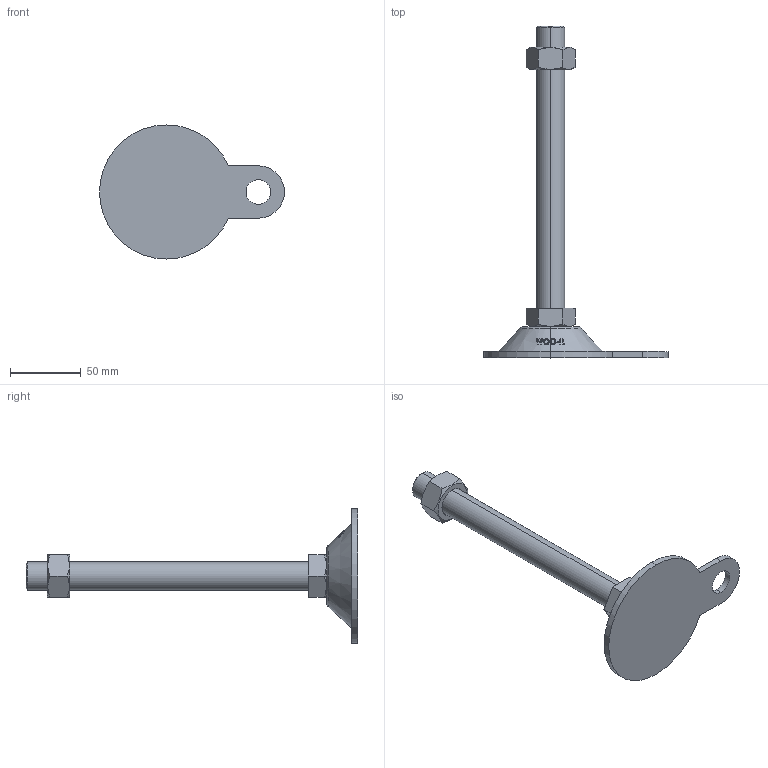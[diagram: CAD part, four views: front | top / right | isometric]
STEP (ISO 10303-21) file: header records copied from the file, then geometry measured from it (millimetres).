
FILE_DESCRIPTION (( 'STEP AP214' ), '1' );
FILE_NAME ('ABL95-M20-200.step', '2021-02-05T04:21:47', ( '' ), ( '' ), 'SwSTEP 2.0', 'SolidWorks 2019', '' );
FILE_SCHEMA (( 'AUTOMOTIVE_DESIGN' ));
Length unit declared in the file: millimetre
Products named in the file (2): ABL95-M20-200
Bounding box: 131 x 235 x 95 mm (x, y, z)
Volume: 163850.5 mm3; surface area: 37013.1 mm2
Topology: 2 solids, 2 shells, 128 faces, 332 edges, 218 vertices
Faces by surface type: plane 48, cylinder 38, cone 22, bspline 18, torus 2
Entity records: 5494 total; most frequent: CARTESIAN_POINT 2574, ORIENTED_EDGE 664, DIRECTION 474, EDGE_CURVE 332, VERTEX_POINT 218, AXIS2_PLACEMENT_3D 176, B_SPLINE_CURVE_WITH_KNOTS 146, EDGE_LOOP 142
